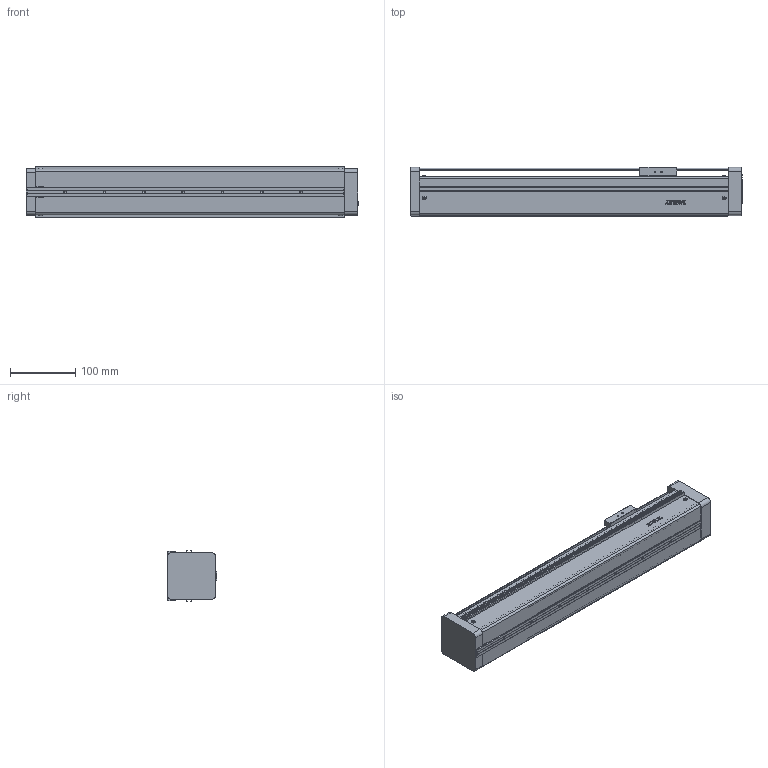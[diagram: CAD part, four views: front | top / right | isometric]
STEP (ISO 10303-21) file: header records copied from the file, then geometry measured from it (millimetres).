
FILE_DESCRIPTION(/* description */ (''),/* implementation_level */ '2;1');
FILE_NAME(/* name */ 'D:\混合母檔20191031\混和母檔\混和母檔\bin\Debug\Download\3D\KE705C-300AF0\KE705C-300AF0.stp',/* time_stamp */ '2019-11-04T14:01:58+08:00',/* author */ ('user'),/* organization */ (''),/* preprocessor_version */ 'ST-DEVELOPER v16.13',/* originating_system */ 'Autodesk Inventor 2018',/* authorisation */ '');
FILE_SCHEMA (('AUTOMOTIVE_DESIGN { 1 0 10303 214 3 1 1 }'));
Length unit declared in the file: millimetre
Products named in the file (3): KE705C-300AF0; KE70-F0-BP; KE70-SL
Assembly tree (2 placements, depth 2):
  KE705C-300AF0
    KE70-F0-BP
    KE70-SL
Bounding box: 507 x 75 x 79.4 mm (x, y, z)
Volume: 2095834.4 mm3; surface area: 312725.5 mm2
Topology: 2 solids, 29 shells, 822 faces, 2185 edges, 1432 vertices
Faces by surface type: plane 496, bspline 148, cylinder 105, cone 61, torus 12
Full cylindrical faces by diameter (mm): 2.459 x20, 3 x12, 3.242 x6, 3.5 x16, 4.134 x11, 5.7 x12, 6 x5, 30 x1
Entity records: 27453 total; most frequent: CARTESIAN_POINT 8728, ORIENTED_EDGE 3856, DIRECTION 3272, EDGE_CURVE 1928, VERTEX_POINT 1331, LINE 1264, VECTOR 1264, EDGE_LOOP 1029
